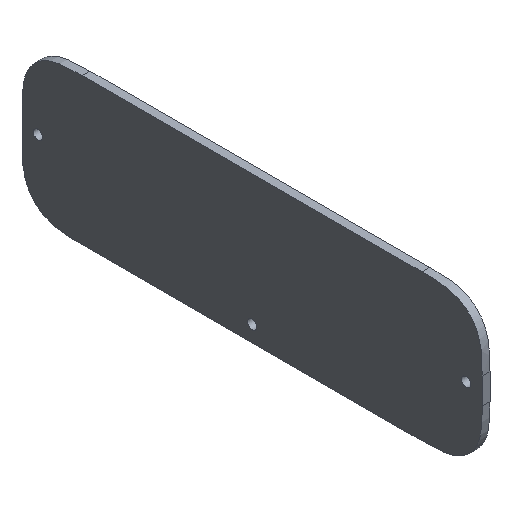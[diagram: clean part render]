
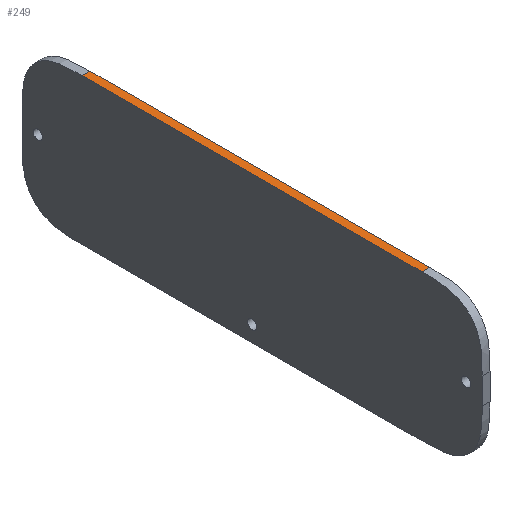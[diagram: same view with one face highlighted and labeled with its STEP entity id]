
A CAD part, isometric view. The second image highlights one B-rep face of the part: STEP entity #249.
In plain terms, the highlighted planar face has unit normal (0, 0, 1).
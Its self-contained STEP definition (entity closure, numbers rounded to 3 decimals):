
#24=PLANE('',#278);
#49=FACE_OUTER_BOUND('',#62,.T.);
#62=EDGE_LOOP('',(#210,#211,#212,#213));
#74=LINE('',#465,#93);
#87=LINE('',#975,#106);
#88=LINE('',#977,#107);
#89=LINE('',#978,#108);
#93=VECTOR('',#304,10.);
#106=VECTOR('',#323,10.);
#107=VECTOR('',#326,10.);
#108=VECTOR('',#327,10.);
#121=VERTEX_POINT('',#425);
#123=VERTEX_POINT('',#464);
#135=VERTEX_POINT('',#899);
#136=VERTEX_POINT('',#937);
#147=EDGE_CURVE('',#121,#123,#74,.T.);
#167=EDGE_CURVE('',#135,#136,#87,.T.);
#168=EDGE_CURVE('',#121,#135,#88,.T.);
#169=EDGE_CURVE('',#123,#136,#89,.T.);
#210=ORIENTED_EDGE('',*,*,#168,.T.);
#211=ORIENTED_EDGE('',*,*,#167,.T.);
#212=ORIENTED_EDGE('',*,*,#169,.F.);
#213=ORIENTED_EDGE('',*,*,#147,.F.);
#249=ADVANCED_FACE('',(#49),#24,.T.);
#278=AXIS2_PLACEMENT_3D('',#976,#324,#325);
#304=DIRECTION('',(-1.,0.,0.));
#323=DIRECTION('',(-1.,0.,0.));
#324=DIRECTION('center_axis',(0.,0.,1.));
#325=DIRECTION('ref_axis',(0.,1.,0.));
#326=DIRECTION('',(0.,1.,0.));
#327=DIRECTION('',(0.,1.,0.));
#425=CARTESIAN_POINT('',(-160.,-65.,187.9));
#464=CARTESIAN_POINT('',(-163.,-65.,187.9));
#465=CARTESIAN_POINT('',(-160.,-65.,187.9));
#899=CARTESIAN_POINT('',(-160.,65.,187.9));
#937=CARTESIAN_POINT('',(-163.,65.,187.9));
#975=CARTESIAN_POINT('',(-160.,65.,187.9));
#976=CARTESIAN_POINT('Origin',(-160.,-65.,187.9));
#977=CARTESIAN_POINT('',(-160.,-65.,187.9));
#978=CARTESIAN_POINT('',(-163.,-65.,187.9));
